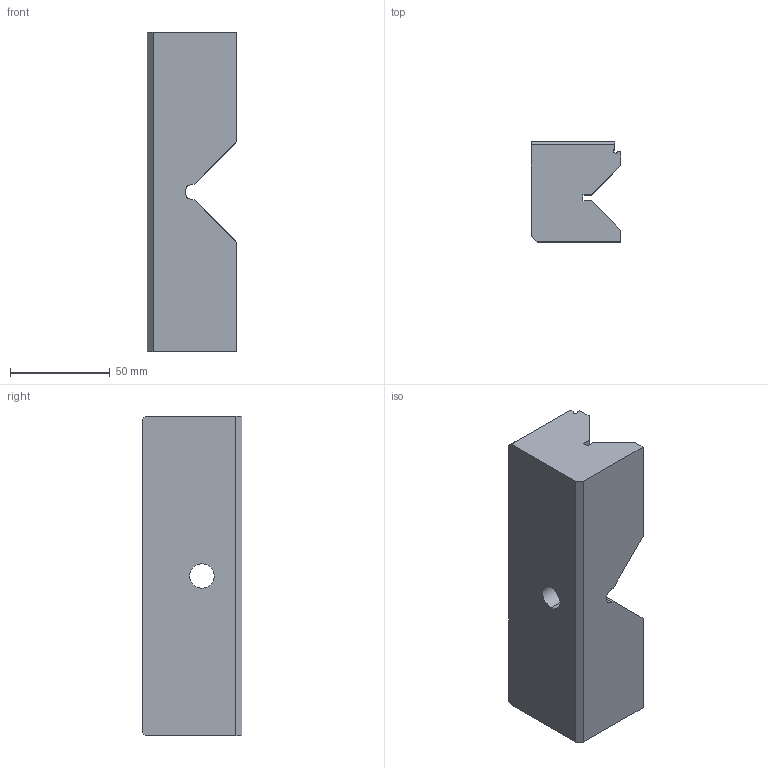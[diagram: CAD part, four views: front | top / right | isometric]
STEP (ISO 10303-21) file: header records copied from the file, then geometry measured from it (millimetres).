
FILE_DESCRIPTION (( 'STEP AP214' ), '1' );
FILE_NAME ('6921034024031.STEP', '2016-02-12T12:52:52', ( '' ), ( '' ), 'SwSTEP 2.0', 'SolidWorks 2015', '' );
FILE_SCHEMA (( 'AUTOMOTIVE_DESIGN' ));
Length unit declared in the file: millimetre
Products named in the file (2): 6921034024000; 6921034024031
Assembly tree (1 placements, depth 2):
  6921034024031
    6921034024000
Bounding box: 45 x 50 x 160 mm (x, y, z)
Volume: 287607.5 mm3; surface area: 37321.9 mm2
Topology: 1 solids, 1 shells, 47 faces, 135 edges, 90 vertices
Faces by surface type: plane 39, cylinder 8
Entity records: 1653 total; most frequent: CARTESIAN_POINT 366, ORIENTED_EDGE 270, DIRECTION 239, EDGE_CURVE 135, VECTOR 113, LINE 113, VERTEX_POINT 90, AXIS2_PLACEMENT_3D 63
